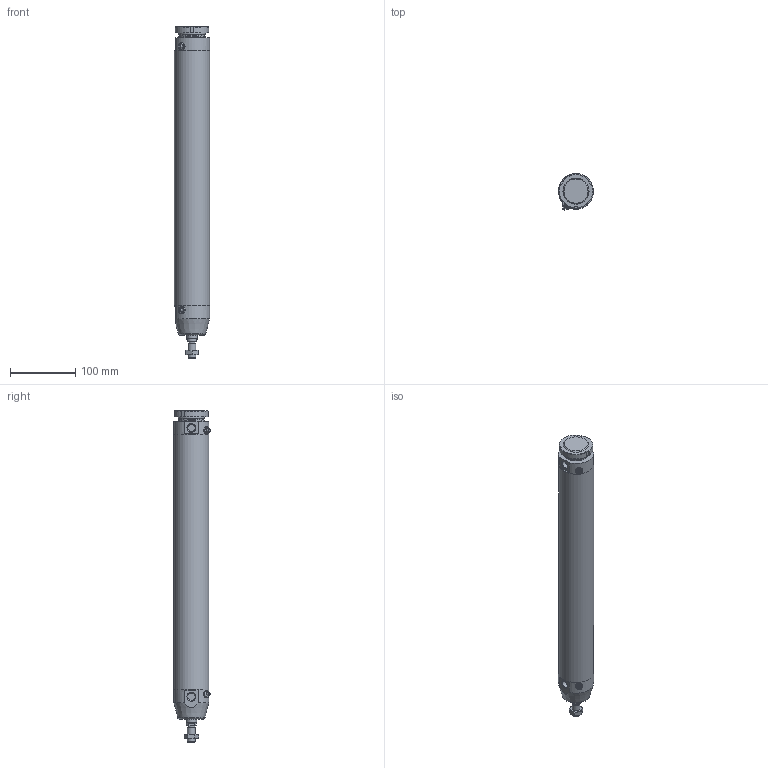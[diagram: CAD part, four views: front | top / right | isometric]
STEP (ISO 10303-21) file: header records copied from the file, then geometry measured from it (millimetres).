
FILE_DESCRIPTION(/* description */ (''),/* implementation_level */ '2;1');
FILE_NAME(/* name */ 'I:\Area Tecnica\Documenti\A-Manieri\_Inventor\12X\12X#B_###_####_#_#\12XBB_050_0350_#_#.stp',/* time_stamp */ '2015-04-28T14:29:21+02:00',/* author */ ('maniean1'),/* organization */ ('Pneumax S.p.A.'),/* preprocessor_version */ 'ST-DEVELOPER v15.2',/* originating_system */ 'Autodesk Inventor 2014',/* authorisation */ '');
FILE_SCHEMA (('AUTOMOTIVE_DESIGN { 1 0 10303 214 3 1 1 }'));
Length unit declared in the file: millimetre
Products named in the file (7): C1250_619-0350; 12X50_614; S12X50_0350; 12X_50_11; 12X50_621; G12X_050_05; 12XBB_050_0350_#_#
Bounding box: 54 x 55.88 x 510 mm (x, y, z)
Volume: 452274.3 mm3; surface area: 189329.3 mm2
Topology: 6 solids, 6 shells, 98 faces, 217 edges, 140 vertices
Faces by surface type: plane 52, cylinder 24, cone 19, torus 3
Full cylindrical faces by diameter (mm): 5 x2, 10.2 x1, 11 x2, 11.4 x2, 12 x2, 14 x1, 15.6 x1, 16 x1, 38.2 x1, 40 x3, 50 x2, 54 x3
Entity records: 2646 total; most frequent: CARTESIAN_POINT 539, DIRECTION 439, ORIENTED_EDGE 346, AXIS2_PLACEMENT_3D 186, EDGE_CURVE 173, EDGE_LOOP 150, VERTEX_POINT 131, ADVANCED_FACE 98
